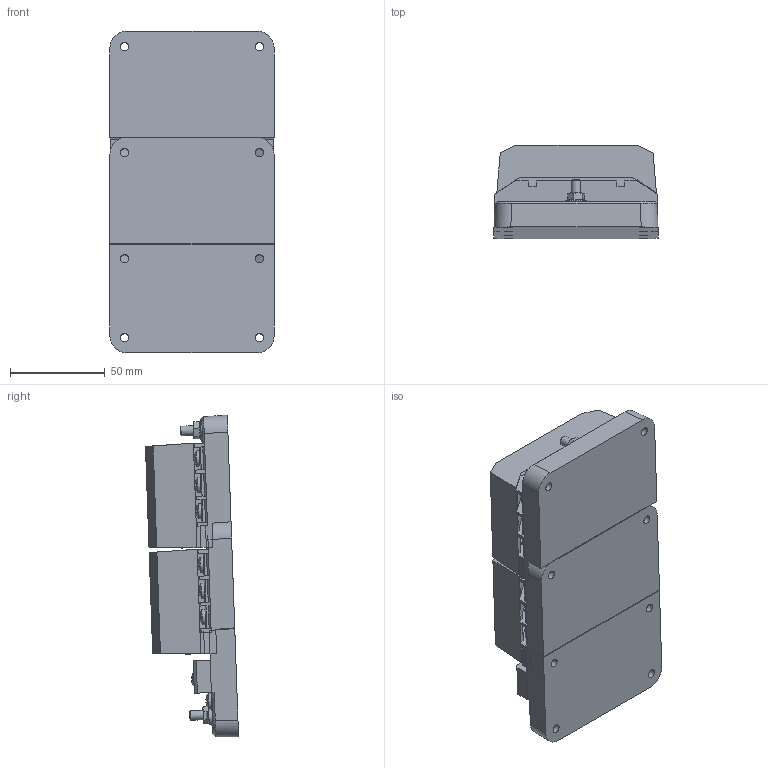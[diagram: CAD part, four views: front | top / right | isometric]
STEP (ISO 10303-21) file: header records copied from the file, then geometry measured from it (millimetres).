
FILE_DESCRIPTION(/* description */ (''),/* implementation_level */ '2;1');
FILE_NAME(/* name */ '5f9c318ee727fc115b8f898c',/* time_stamp */ '2020-10-30T15:30:23+00:00',/* author */ (''),/* organization */ (''),/* preprocessor_version */ 'ST-DEVELOPER v16.7',/* originating_system */ $,/* authorisation */ $);
FILE_SCHEMA (('AUTOMOTIVE_DESIGN {1 0 10303 214 3 1 1}'));
Length unit declared in the file: metre
Products named in the file (11): 8026; 8028 No Filler <1>; PH Pan head screw M4x0.70 x 8; Socket button head screw M5x0.8 x 12; Hex flange nut M5x0.80; Part 1; 8030 <1>; PH Pan head screw M5x0.80 x 12; 8028 No Filler <2>
Assembly tree (38 placements, depth 3):
  8026
    8028 No Filler <1>
      PH Pan head screw M4x0.70 x 8  x6
      Socket button head screw M5x0.8 x 12
      Hex flange nut M5x0.80
      Part 1
      Part 1
    8030 <1>
      PH Pan head screw M4x0.70 x 8  x12
      PH Pan head screw M5x0.80 x 12
      Hex flange nut M5x0.80
      Part 1
    8028 No Filler <2>
      PH Pan head screw M4x0.70 x 8  x6
      Hex flange nut M5x0.80
      Socket button head screw M5x0.8 x 12
      Part 1
      Part 1
Bounding box: 86.5 x 49.08 x 169.7 mm (x, y, z)
Volume: 334454.5 mm3; surface area: 110647 mm2
Topology: 35 solids, 35 shells, 1868 faces, 4953 edges, 3246 vertices
Faces by surface type: plane 1449, cylinder 253, cone 85, torus 30, sphere 27, bspline 24
Full cylindrical faces by diameter (mm): 3.175 x12, 3.2 x12, 3.35 x8, 3.624 x2, 3.849 x2, 3.962 x3, 4 x24, 4.134 x3, 4.45 x8, 5 x3, 7.1 x4, 7.112 x2, 8 x24, 8.5 x4, 8.56 x2, 9.5 x1
Entity records: 19588 total; most frequent: CARTESIAN_POINT 3732, DIRECTION 3145, ORIENTED_EDGE 3144, EDGE_CURVE 1572, LINE 1177, VECTOR 1177, VERTEX_POINT 1070, AXIS2_PLACEMENT_3D 984
